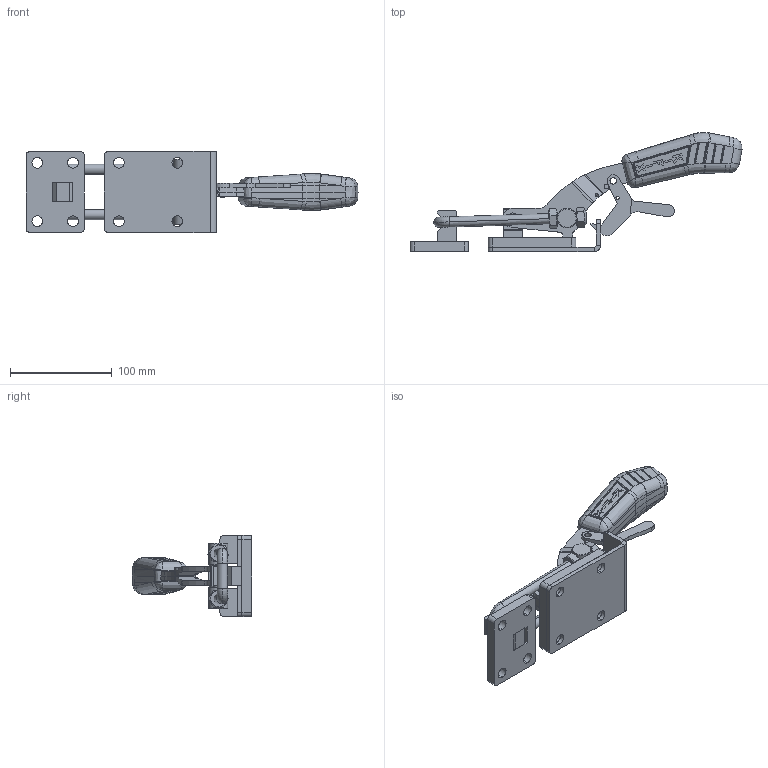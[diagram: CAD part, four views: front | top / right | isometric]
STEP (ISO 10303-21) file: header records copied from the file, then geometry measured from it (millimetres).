
FILE_DESCRIPTION (( 'STEP AP203' ), '1' );
FILE_NAME ('KF-375 D TR.STEP', '2014-08-22T13:23:13', ( 'Ricardo' ), ( '' ), 'SwSTEP 2.0', 'SolidWorks 2013', '' );
FILE_SCHEMA (( 'CONFIG_CONTROL_DESIGN' ));
Length unit declared in the file: millimetre
Products named in the file (16): 18.10026; 15.10038; 3670000095; 01.10171_Direita; KF-375 D TR; 01.10171_Esquerda; 11.50019; 16.20044; 11.50003; 03.20031; 07.60003; 02.10018; 06.50017; 02.10017; 02.10055; 15.10037
Assembly tree (17 placements, depth 2):
  KF-375 D TR
    02.10018
    02.10017
    15.10037
    15.10038
    01.10171_Direita
    01.10171_Esquerda
    16.20044
    03.20031
    11.50019  x2
    11.50003  x2
    07.60003
    06.50017
    02.10055
    18.10026
    3670000095
Bounding box: 325.49 x 116.81 x 79.5 mm (x, y, z)
Volume: 355274.2 mm3; surface area: 128668.2 mm2
Topology: 17 solids, 17 shells, 754 faces, 1927 edges, 1216 vertices
Faces by surface type: plane 264, cylinder 246, bspline 151, sphere 48, cone 38, torus 7
Entity records: 27556 total; most frequent: CARTESIAN_POINT 9737, ORIENTED_EDGE 3646, DIRECTION 2918, EDGE_CURVE 1823, VERTEX_POINT 1156, AXIS2_PLACEMENT_3D 1127, EDGE_LOOP 811, FACE_OUTER_BOUND 720
